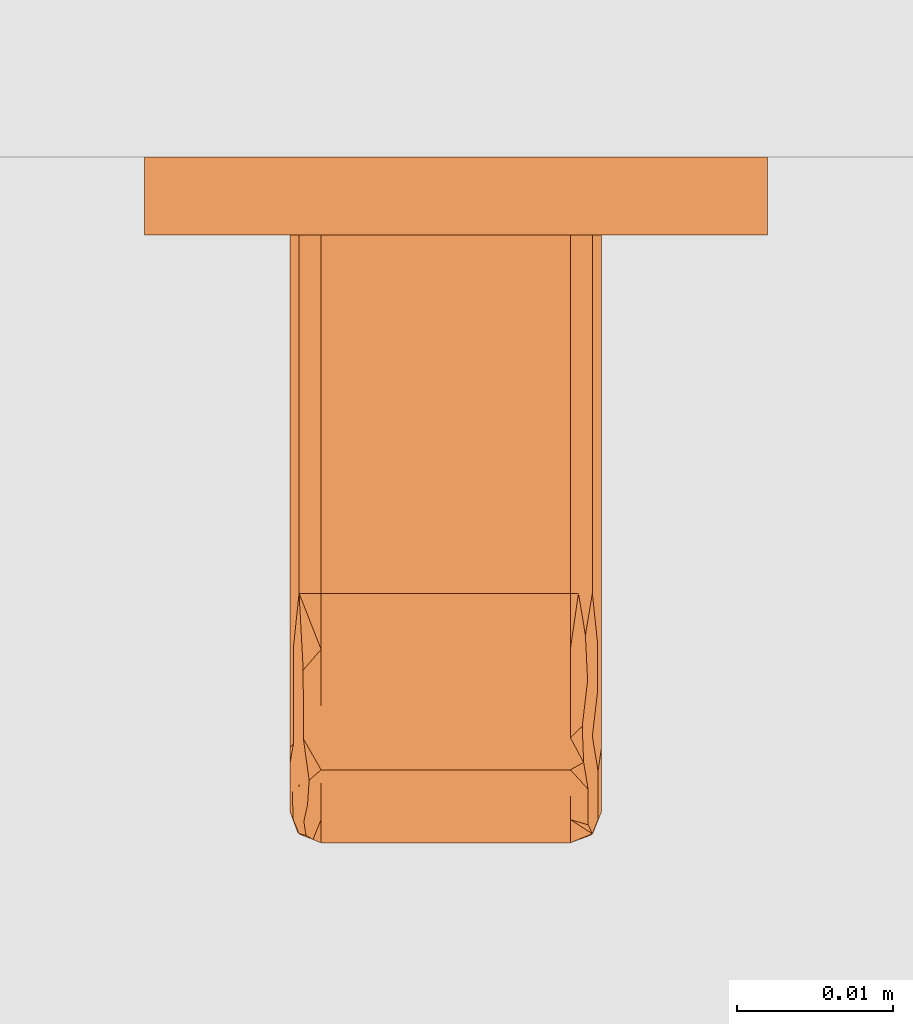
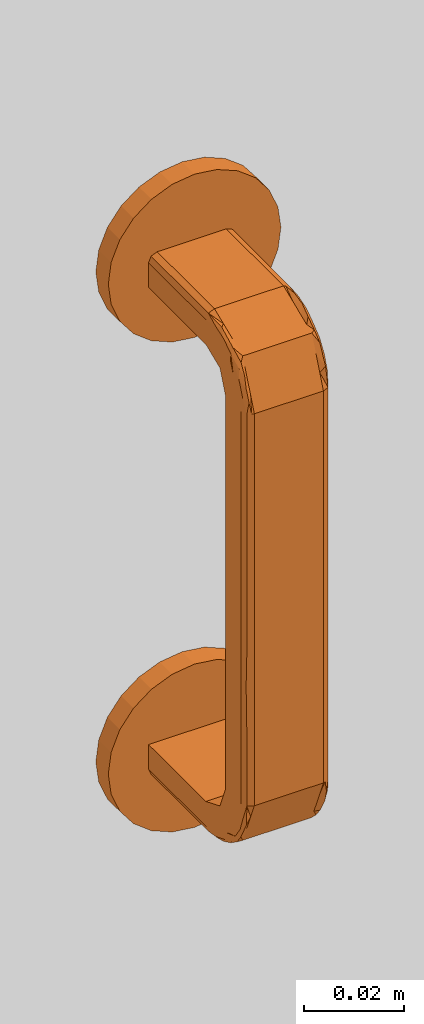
# One storey, part 37 of 67: 1 proxy.
"""IFC4 building model written with IfcOpenShell, lengths in millimetres."""

from ifc_helpers import new_model, entity, si_unit, converted_unit, direction, frame, origin, place, context, subcontext, project, spatial, polygons, source, transform, mapped, material, type_object, type_shapes, element, save


model = new_model("IFC4")

# Units and contexts
model_context = context("Model", 3, precision=0.01, world=origin(), true_north=direction((0.0, 1.0)))
body_context = subcontext(model_context, "Body", "Model", "MODEL_VIEW")
ifc_project = project(units=[si_unit("LENGTHUNIT", "METRE", prefix="MILLI"), si_unit("AREAUNIT", "SQUARE_METRE"), si_unit("VOLUMEUNIT", "CUBIC_METRE"), converted_unit("PLANEANGLEUNIT", "DEGREE", entity("IfcPlaneAngleMeasure", 0.017453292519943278), si_unit("PLANEANGLEUNIT", "RADIAN"), dimensions=[0, 0, 0, 0, 0, 0, 0])], contexts=[model_context])

# Site, building, storey, space
site_placement = place(None, origin())
site = spatial("IfcSite", under=ifc_project, at=site_placement, Name="Tomtens navn", CompositionType="ELEMENT")
building_placement = place(site_placement, origin())
building = spatial("IfcBuilding", under=site, at=building_placement, Name="Byggets navn", CompositionType="ELEMENT")
storey_placement = place(building_placement, origin())
storey = spatial("IfcBuildingStorey", under=building, at=storey_placement, Name="Level 01", CompositionType="ELEMENT", Elevation=2.1993652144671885e-25)
space_placement = place(storey_placement, origin())
space = spatial("IfcSpace", under=storey, at=space_placement, Name="121", CompositionType="ELEMENT", PredefinedType="NOTDEFINED")

# Proxy
ifc_material = material(Name="Handtag, vitt", Category="Unassigned")
building_element_proxy_type = type_object("IfcBuildingElementProxyType", Name="Handtag skåp1:Handtag skåp", PredefinedType="NOTDEFINED", material=ifc_material)
shared_shape = source(origin(), body_context, "Body", "Tessellation", [
    polygons([(8.670220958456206, 4.999999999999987, 4.021099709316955), (-7.329779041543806, 4.999999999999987, 4.021099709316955), (-8.743992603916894, 4.9999999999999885, 3.435313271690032), (-9.32977904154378, 4.999999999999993, 2.021099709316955), (-9.32977904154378, 5.0000000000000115, -4.0210997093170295), (10.67022095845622, 5.0000000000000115, -4.021099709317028), (10.67022095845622, 4.999999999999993, 2.0210997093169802), (10.084434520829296, 4.9999999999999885, 3.435313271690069), (10.67022095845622, 28.000000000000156, 2.0210997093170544), (10.084434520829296, 28.000000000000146, 3.435313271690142), (8.670220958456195, 28.000000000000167, 4.0210997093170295), (8.670220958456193, 15.654960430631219, 4.02109970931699), (10.67022095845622, 17.345040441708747, 2.02109970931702), (10.08659387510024, 16.21238630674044, 3.433150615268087), (10.67022095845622, 28.000000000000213, -4.021099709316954), (10.67022095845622, 33.64193450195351, -6.358065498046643), (10.67022095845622, 35.97890029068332, -11.999999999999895), (10.67022095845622, 35.97890029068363, -107.99999999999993), (10.67022095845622, 33.641934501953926, -113.64193450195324), (10.67022095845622, 28.000000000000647, -115.97890029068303), (10.67022095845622, 4.999999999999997, -115.97890029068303), (10.67022095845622, 4.999999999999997, -122.02109970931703), (10.67022095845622, 28.000000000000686, -122.02109970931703), (10.67022095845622, 37.914414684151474, -117.91441468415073), (10.67022095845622, 42.02109970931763, -107.99999999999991), (10.67022095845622, 42.0210997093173, -11.999999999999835), (10.67022095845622, 37.914414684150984, -2.085585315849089), (-9.32977904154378, 28.000000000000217, -4.021099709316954), (-9.32977904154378, 28.000000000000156, 2.02109970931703), (-9.32977904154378, 37.91441468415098, -2.085585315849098), (-9.32977904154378, 42.02109970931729, -11.999999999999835), (-9.32977904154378, 42.02109970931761, -107.99999999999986), (-9.32977904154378, 37.91441468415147, -117.91441468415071), (-9.32977904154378, 28.00000000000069, -122.02109970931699), (-9.32977904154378, 4.999999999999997, -122.021099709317), (-9.32977904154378, 4.999999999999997, -115.978900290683), (-9.32977904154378, 28.000000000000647, -115.97890029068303), (-9.32977904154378, 33.641934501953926, -113.64193450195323), (-9.32977904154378, 35.97890029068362, -107.99999999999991), (-9.32977904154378, 35.978900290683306, -11.999999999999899), (-9.32977904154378, 33.64193450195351, -6.358065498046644), (-7.329779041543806, 28.00000000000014, 4.0210997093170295), (-8.743992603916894, 28.000000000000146, 3.435313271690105), (-9.32977904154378, 15.654959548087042, 2.021099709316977), (-7.3297790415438, 17.34503999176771, 4.021099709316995), (-8.741829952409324, 16.21238644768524, 3.43747262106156), (10.084434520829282, 43.43531327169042, -11.999999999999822), (8.670220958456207, 44.021099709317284, -11.999999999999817), (8.670220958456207, 39.328628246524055, -0.6713717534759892), (10.67022095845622, 31.60126528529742, 0.5294067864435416), (8.670220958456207, 41.03771385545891, -4.797469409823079), (10.084434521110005, 40.40873190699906, -2.8200071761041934), (8.670220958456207, 35.20253058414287, 1.0377138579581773), (9.809043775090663, 37.34144424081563, 0.5752165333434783), (9.818751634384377, 32.92350079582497, 2.8642465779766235), (10.67022095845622, 39.96775719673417, -7.042792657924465), (10.377327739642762, 28.000000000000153, 2.7282064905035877), (8.670220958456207, 42.529406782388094, -8.398734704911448), (9.779150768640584, 42.65191997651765, -6.400304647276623), (10.431420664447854, 34.75591670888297, 1.357514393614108), (10.447049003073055, 37.64140257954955, -0.5884869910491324), (10.67022095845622, 34.7578399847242, -0.7780892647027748), (10.453824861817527, 31.52927433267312, 2.5026982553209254), (8.670220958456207, 31.601265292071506, 2.5294067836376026), (8.670220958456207, 40.18317105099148, -2.734420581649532), (9.435587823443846, 40.00295364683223, -1.6197407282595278), (9.543801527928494, 41.59747716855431, -3.9137042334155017), (10.67022095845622, 38.941085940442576, -4.564188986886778), (10.50224699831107, 40.95405539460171, -4.794062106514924), (10.477567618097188, 42.45420227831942, -8.47617064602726), (9.193272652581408, 43.80444460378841, -11.999999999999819), (9.638611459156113, 43.538770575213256, -9.303396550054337), (10.67022095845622, 40.99442845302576, -9.521396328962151), (-7.329779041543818, 44.021099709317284, -11.999999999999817), (-8.743992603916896, 43.43531327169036, -11.999999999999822), (-7.329779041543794, 39.328628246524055, -0.6713717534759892), (-7.329779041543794, 35.20253057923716, 1.0377138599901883), (-8.743992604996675, 37.179992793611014, 0.40873192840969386), (-9.32977904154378, 40.52940677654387, -8.398734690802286), (-7.329779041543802, 41.03771385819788, -4.797469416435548), (-8.468601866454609, 40.57521654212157, -2.6585557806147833), (-8.47830971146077, 42.864246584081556, -7.076499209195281), (-9.32977904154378, 32.95720734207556, -0.03224280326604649), (-9.036885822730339, 42.728206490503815, -11.999999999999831), (-7.329779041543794, 31.601265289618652, 2.529406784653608), (-8.43870885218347, 33.59969531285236, 2.6519199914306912), (-9.090978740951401, 41.357514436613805, -5.244083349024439), (-9.106607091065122, 39.41151304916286, -2.358597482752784), (-9.32977904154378, 39.22191073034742, -5.242160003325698), (-9.113382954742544, 42.502698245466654, -8.470725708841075), (-7.32977904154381, 42.52940678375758, -8.398734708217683), (-7.329779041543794, 37.26557941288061, 0.18317105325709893), (-8.095145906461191, 36.54048464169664, 1.37463273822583), (-8.18279176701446, 38.85536792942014, -0.47819170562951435), (-9.32977904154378, 35.43581101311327, -1.0589140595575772), (-7.852830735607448, 28.00000000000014, 3.8044446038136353), (-8.29816953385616, 30.69660343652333, 3.5387705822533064), (-9.060718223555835, 31.048754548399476, 2.7104148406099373), (-9.074370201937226, 34.340507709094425, 1.5930015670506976), (-9.32977904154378, 30.478603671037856, 0.9944284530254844), (-7.32977904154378, 33.664314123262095, 1.6748639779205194), (8.670220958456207, 33.664314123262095, 1.6748639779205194), (8.670220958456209, 30.748770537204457, 2.882521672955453), (-7.32977904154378, 41.67486397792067, -6.335685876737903), (8.670220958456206, 41.67486397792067, -6.335685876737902), (8.670220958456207, 40.50174611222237, -3.503528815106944), (-7.32977904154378, 36.496471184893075, 0.5017461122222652), (8.670220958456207, 36.496471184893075, 0.5017461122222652), (-7.32977904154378, 30.83215706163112, 2.847981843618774), (8.670220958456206, 42.882521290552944, -9.251228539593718), (-7.32977904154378, 42.84798184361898, -9.167842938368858), (-7.32977904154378, 40.50174611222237, -3.503528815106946), (10.084434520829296, 43.435313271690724, -107.99999999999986), (8.670220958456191, 44.0210997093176, -107.99999999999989), (10.67022095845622, 42.02109970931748, -61.380159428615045), (8.670220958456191, 44.021099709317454, -60.0000005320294), (8.670220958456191, 44.02109970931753, -83.30992070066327), (10.67022095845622, 42.021099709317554, -84.69007971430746), (8.670220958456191, 44.021099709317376, -36.690079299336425), (10.67022095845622, 42.02109970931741, -36.690079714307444), (10.67022095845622, 42.021099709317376, -24.34503985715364), (8.670220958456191, 44.02109970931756, -95.65496088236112), (8.670220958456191, 44.02109970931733, -24.34504018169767), (10.67022095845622, 42.021099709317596, -95.65496014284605), (10.084434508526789, 43.43531328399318, -90.17251993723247), (10.67022095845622, 42.02109970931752, -73.035119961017), (10.043884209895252, 43.4747328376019, -67.20763959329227), (10.084434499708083, 43.435313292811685, -30.517560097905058), (10.084434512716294, 43.435313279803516, -43.72292802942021), (10.67022095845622, 42.021099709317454, -49.03511957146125), (10.049878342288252, 43.469044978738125, -55.46284370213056), (8.67022095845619, 44.02109970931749, -71.65496114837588), (10.18815291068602, 43.32336027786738, -78.66752152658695), (8.670220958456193, 44.02109970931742, -48.34503991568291), (-7.329779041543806, 44.0210997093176, -107.99999999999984), (-8.743992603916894, 43.43531327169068, -107.99999999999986), (-7.3297790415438, 44.021099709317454, -61.38015981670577), (-9.32977904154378, 42.021099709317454, -59.999999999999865), (-9.32977904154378, 42.02109970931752, -83.30992051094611), (-7.329779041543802, 44.02109970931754, -84.69008022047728), (-9.32977904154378, 42.02109970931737, -36.69007991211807), (-7.329779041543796, 44.021099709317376, -36.69007990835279), (-7.329779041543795, 44.02109970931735, -24.345039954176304), (-9.32977904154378, 42.02109970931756, -95.65496025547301), (-9.32977904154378, 42.02109970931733, -24.345040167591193), (-7.329779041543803, 44.021099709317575, -95.65496067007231), (-8.743992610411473, 43.43531326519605, -90.17252002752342), (-7.3297790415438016, 44.0210997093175, -73.03512001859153), (-8.783412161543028, 43.39476296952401, -67.2076399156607), (-8.743992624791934, 43.4353132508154, -30.517560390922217), (-8.74399260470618, 43.43531327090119, -43.72292838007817), (-7.329779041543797, 44.02109970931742, -49.03511986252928), (-8.777724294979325, 43.40075710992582, -55.46284405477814), (-9.32977904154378, 42.02109970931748, -71.65496025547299), (-8.632039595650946, 43.53903167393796, -78.6675217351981), (-9.32977904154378, 42.02109970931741, -48.345039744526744), (10.08443452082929, 28.0000000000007, -123.43531327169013), (8.670220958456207, 28.000000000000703, -124.02109970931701), (8.670220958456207, 39.32862824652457, -119.32862824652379), (10.67022095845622, 40.52940678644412, -111.60126528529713), (8.670220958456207, 35.202530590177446, -121.03771385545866), (10.084434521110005, 37.179992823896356, -120.4087319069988), (8.670220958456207, 41.03771385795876, -115.20253058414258), (9.809043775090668, 40.575216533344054, -117.34144424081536), (9.818751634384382, 42.864246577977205, -112.9235007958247), (10.67022095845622, 32.95720734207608, -119.96775719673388), (10.377327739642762, 42.728206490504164, -107.99999999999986), (8.670220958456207, 31.601265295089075, -122.52940678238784), (9.779150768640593, 33.5996953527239, -122.65191997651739), (10.431420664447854, 41.357514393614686, -114.7559167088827), (10.447049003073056, 39.41151300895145, -117.64140257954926), (10.67022095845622, 39.2219107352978, -114.75783998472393), (10.453824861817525, 42.50269825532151, -111.52927433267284), (8.670220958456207, 42.52940678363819, -111.60126529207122), (8.670220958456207, 37.26557941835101, -120.18317105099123), (9.43558782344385, 38.38025927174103, -120.00295364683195), (9.543801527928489, 36.08629576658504, -121.59747716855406), (10.67022095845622, 35.435811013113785, -118.9410859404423), (10.50224699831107, 35.20593789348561, -120.95405539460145), (10.477567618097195, 31.523829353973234, -122.45420227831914), (9.193272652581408, 28.000000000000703, -123.80444460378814), (9.638611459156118, 30.696603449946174, -123.538770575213), (10.67022095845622, 30.47860367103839, -120.99442845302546), (-7.329779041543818, 28.000000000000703, -124.02109970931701), (-8.743992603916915, 28.0000000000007, -123.43531327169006), (-7.329779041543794, 39.32862824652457, -119.32862824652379), (-7.329779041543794, 41.03771385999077, -115.20253057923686), (-8.743992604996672, 40.40873192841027, -117.17999279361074), (-9.32977904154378, 31.601265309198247, -120.52940677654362), (-7.329779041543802, 35.20253058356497, -121.03771385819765), (-8.468601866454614, 37.34144421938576, -120.57521654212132), (-8.478309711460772, 32.92350079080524, -122.8642465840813), (-9.32977904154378, 39.967757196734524, -112.95720734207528), (-9.036885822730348, 28.000000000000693, -122.72820649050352), (-7.329779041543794, 42.529406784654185, -111.60126528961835), (-8.438708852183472, 42.65191999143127, -113.59969531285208), (-9.090978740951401, 34.75591665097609, -121.35751443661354), (-9.106607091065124, 37.64140251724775, -119.41151304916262), (-9.32977904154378, 34.75783999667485, -119.22191073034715), (-9.113382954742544, 31.529274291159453, -122.50269824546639), (-7.329779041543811, 31.601265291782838, -122.52940678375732), (-7.329779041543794, 40.18317105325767, -117.26557941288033), (-8.095145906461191, 41.37463273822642, -116.54048464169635), (-8.182791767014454, 39.52180829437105, -118.85536792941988), (-9.32977904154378, 38.941085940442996, -115.435811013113), (-7.852830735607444, 43.804444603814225, -107.99999999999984), (-8.298169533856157, 43.53877058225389, -110.69660343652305), (-9.060718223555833, 42.710414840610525, -111.04875454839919), (-9.074370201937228, 41.59300156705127, -114.34050770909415), (-9.32977904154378, 40.99442845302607, -110.47860367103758), (-7.32977904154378, 41.6748639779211, -113.66431412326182), (8.670220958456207, 41.6748639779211, -113.66431412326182), (8.670220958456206, 42.88252167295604, -110.74877053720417), (-7.32977904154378, 33.66431412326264, -121.67486397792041), (8.670220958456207, 33.66431412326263, -121.67486397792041), (8.670220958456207, 36.4964711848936, -120.50174611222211), (-7.32977904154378, 40.50174611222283, -116.4964711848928), (8.670220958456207, 40.50174611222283, -116.4964711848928), (-7.32977904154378, 42.84798184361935, -110.83215706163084), (8.670220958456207, 30.748771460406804, -122.88252129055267), (-7.329779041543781, 30.83215706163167, -122.84798184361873), (-7.32977904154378, 36.49647118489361, -120.50174611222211), (8.670220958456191, 4.99999999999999, -124.021099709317), (10.084434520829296, 4.99999999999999, -123.43531327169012), (-8.743992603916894, 4.99999999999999, -123.43531327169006), (-7.32977904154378, 4.99999999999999, -124.02109970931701), (8.670220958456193, 17.34504139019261, -124.021099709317), (10.67022095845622, 15.65496022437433, -122.02109970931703), (10.08659387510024, 16.787613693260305, -123.43315061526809), (-9.32977904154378, 17.34504010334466, -122.02109970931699), (-7.3297790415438, 15.6549594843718, -124.021099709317), (-8.741829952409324, 16.787613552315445, -123.43747262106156)], [[[4, 5, 6, 7, 8, 1, 2, 3]], [[18, 17, 40, 39]], [[226, 223, 224, 22, 21, 36, 35, 225]], [[13, 9, 57, 10]], [[14, 13, 10]], [[11, 12, 14]], [[1, 8, 12]], [[12, 8, 14]], [[13, 14, 7]], [[14, 8, 7]], [[14, 10, 11]], [[6, 15, 16, 17, 18, 19, 20, 21, 22, 228, 23, 183, 166, 178, 24, 172, 160, 25, 124, 118, 126, 115, 130, 120, 121, 26, 73, 56, 68, 27, 62, 50, 9, 13, 7]], [[15, 6, 5, 28]], [[158, 227, 223, 226, 231, 184]], [[36, 37, 38, 39, 40, 41, 28, 5, 4, 44, 29, 100, 83, 95, 30, 89, 79, 31, 145, 141, 156, 138, 154, 139, 144, 32, 210, 193, 205, 33, 199, 189, 34, 230, 35]], [[45, 42, 96, 43]], [[46, 45, 43]], [[29, 44, 46]], [[4, 3, 44]], [[44, 3, 46]], [[45, 46, 2]], [[46, 3, 2]], [[46, 43, 29]], [[2, 1, 12, 11, 42, 45]], [[21, 20, 37, 36]], [[60, 62, 61]], [[68, 56, 69]], [[66, 65, 49]], [[55, 54, 53]], [[59, 58, 105, 51]], [[67, 51, 106, 65]], [[69, 56, 70]], [[50, 60, 63]], [[55, 64, 10]], [[59, 67, 52]], [[54, 49, 108, 53]], [[72, 71, 58]], [[54, 55, 60]], [[69, 61, 68]], [[66, 52, 67]], [[68, 61, 27]], [[55, 10, 63]], [[63, 10, 57, 9]], [[71, 48, 110, 58]], [[70, 26, 47]], [[54, 60, 61]], [[63, 9, 50]], [[54, 61, 52]], [[27, 61, 62]], [[60, 50, 62]], [[63, 60, 55]], [[10, 64, 103, 11]], [[55, 53, 102, 64]], [[66, 54, 52]], [[66, 49, 54]], [[66, 67, 65]], [[67, 59, 51]], [[69, 52, 61]], [[69, 59, 52]], [[59, 69, 70]], [[70, 72, 59]], [[73, 26, 70, 56]], [[47, 71, 72]], [[47, 72, 70]], [[59, 72, 58]], [[15, 28, 41, 16]], [[41, 40, 17, 16]], [[96, 42, 109, 85]], [[79, 87, 90]], [[86, 85, 101, 77]], [[86, 99, 98]], [[93, 77, 107, 92]], [[81, 82, 87]], [[80, 82, 81]], [[78, 95, 99]], [[87, 89, 88]], [[78, 99, 86]], [[93, 94, 78]], [[82, 91, 75]], [[81, 76, 112, 80]], [[94, 93, 92]], [[88, 78, 94]], [[95, 88, 30]], [[82, 75, 90]], [[90, 75, 84, 31]], [[43, 97, 98]], [[86, 98, 97]], [[81, 87, 88]], [[90, 31, 79]], [[94, 81, 88]], [[30, 88, 89]], [[87, 79, 89]], [[90, 87, 82]], [[75, 91, 111, 74]], [[82, 80, 104, 91]], [[93, 86, 77]], [[93, 78, 86]], [[94, 76, 81]], [[76, 94, 92]], [[78, 88, 95]], [[43, 96, 97]], [[97, 96, 85]], [[86, 97, 85]], [[98, 29, 43]], [[99, 95, 83, 100]], [[100, 98, 99]], [[100, 29, 98]], [[42, 11, 103, 64, 102, 53, 108, 49, 76, 92, 107, 77, 101, 85, 109]], [[105, 58, 110, 48, 74, 111, 91, 104, 80, 112, 76, 49, 65, 106, 51]], [[47, 26, 121, 120, 130, 129, 128]], [[124, 25, 167, 113, 125, 118]], [[118, 133, 126]], [[127, 115, 126]], [[123, 48, 71, 47, 128, 129, 134, 119]], [[113, 114, 122, 117, 125]], [[129, 130, 131]], [[115, 131, 130]], [[133, 127, 126]], [[132, 116, 127]], [[125, 117, 133]], [[116, 134, 131]], [[127, 116, 131]], [[127, 131, 115]], [[134, 129, 131]], [[132, 127, 133]], [[117, 132, 133]], [[125, 133, 118]], [[75, 74, 143, 142, 152, 151, 150]], [[146, 135, 206, 136, 147, 140]], [[140, 155, 148]], [[149, 137, 148]], [[145, 31, 84, 75, 150, 151, 156, 141]], [[136, 32, 144, 139, 147]], [[151, 152, 153]], [[137, 153, 152]], [[155, 149, 148]], [[154, 138, 149]], [[147, 139, 155]], [[138, 156, 153]], [[149, 138, 153]], [[149, 153, 137]], [[156, 151, 153]], [[154, 149, 155]], [[139, 154, 155]], [[147, 155, 140]], [[74, 48, 123, 119, 134, 116, 132, 117, 122, 114, 135, 146, 140, 148, 137, 152, 142, 143]], [[170, 172, 171]], [[178, 166, 179]], [[176, 175, 159]], [[165, 164, 163]], [[169, 168, 215, 161]], [[177, 161, 216, 175]], [[179, 166, 180]], [[160, 170, 173]], [[165, 174, 113]], [[169, 177, 162]], [[164, 159, 218, 163]], [[182, 181, 168]], [[164, 165, 170]], [[179, 171, 178]], [[176, 162, 177]], [[178, 171, 24]], [[165, 113, 173]], [[173, 113, 167, 25]], [[181, 158, 220, 168]], [[180, 23, 157]], [[164, 170, 171]], [[173, 25, 160]], [[164, 171, 162]], [[24, 171, 172]], [[170, 160, 172]], [[173, 170, 165]], [[113, 174, 213, 114]], [[165, 163, 212, 174]], [[176, 164, 162]], [[176, 159, 164]], [[176, 177, 175]], [[177, 169, 161]], [[179, 162, 171]], [[179, 169, 162]], [[169, 179, 180]], [[180, 182, 169]], [[183, 23, 180, 166]], [[157, 181, 182]], [[157, 182, 180]], [[169, 182, 168]], [[18, 39, 38, 19]], [[38, 37, 20, 19]], [[206, 135, 219, 195]], [[189, 197, 200]], [[196, 195, 211, 187]], [[196, 209, 208]], [[203, 187, 217, 202]], [[191, 192, 197]], [[190, 192, 191]], [[188, 205, 209]], [[197, 199, 198]], [[188, 209, 196]], [[203, 204, 188]], [[192, 201, 185]], [[191, 186, 222, 190]], [[204, 203, 202]], [[188, 196, 203]], [[205, 198, 33]], [[192, 185, 200]], [[200, 185, 194, 34]], [[136, 207, 208]], [[196, 208, 207]], [[191, 197, 198]], [[200, 34, 189]], [[204, 191, 198]], [[33, 198, 199]], [[197, 189, 199]], [[200, 197, 192]], [[185, 201, 221, 184]], [[192, 190, 214, 201]], [[187, 203, 196]], [[188, 204, 198]], [[204, 186, 191]], [[186, 204, 202]], [[188, 198, 205]], [[136, 206, 207]], [[207, 206, 195]], [[196, 207, 195]], [[208, 32, 136]], [[209, 205, 193, 210]], [[210, 208, 209]], [[210, 32, 208]], [[135, 114, 213, 174, 212, 163, 218, 159, 186, 202, 217, 187, 211, 195, 219]], [[215, 168, 220, 158, 184, 221, 201, 214, 190, 222, 186, 159, 175, 216, 161]], [[22, 224, 228]], [[229, 228, 224]], [[223, 227, 229]], [[227, 158, 181, 157]], [[227, 157, 229]], [[228, 229, 23]], [[229, 157, 23]], [[229, 224, 223]], [[226, 225, 231]], [[232, 231, 225]], [[35, 230, 232]], [[230, 34, 194, 185]], [[230, 185, 232]], [[231, 232, 184]], [[232, 185, 184]], [[232, 225, 35]]], closed=True),
    polygons([(-20.00000000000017, 4.999999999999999, 4.9806020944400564e-15), (-19.318516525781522, 4.999999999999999, 5.176380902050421), (-17.320508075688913, 4.999999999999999, 9.999999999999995), (-14.142135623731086, 4.999999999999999, 14.142135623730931), (-10.000000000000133, 4.999999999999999, 17.320508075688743), (-5.176380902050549, 4.999999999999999, 19.318516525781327), (-1.3958834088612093e-13, 4.999999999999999, 19.99999999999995), (5.176380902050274, 4.999999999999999, 19.31851652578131), (9.99999999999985, 4.999999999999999, 17.32050807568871), (14.142135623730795, 4.999999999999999, 14.142135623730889), (17.32050807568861, 4.999999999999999, 9.999999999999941), (19.3185165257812, 4.999999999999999, 5.17638090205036), (19.999999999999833, 4.999999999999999, -1.622393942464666e-13), (19.318516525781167, 4.999999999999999, -5.176380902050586), (17.320508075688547, 4.999999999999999, -10.000000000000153), (14.142135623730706, 4.999999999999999, -14.142135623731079), (9.999999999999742, 4.999999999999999, -17.320508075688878), (5.176380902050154, 4.999999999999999, -19.31851652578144), (-2.580269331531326e-13, 4.999999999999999, -20.00000000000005), (-5.176380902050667, 4.999999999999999, -19.318516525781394), (-10.000000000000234, 4.999999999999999, -17.320508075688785), (-14.14213562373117, 4.999999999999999, -14.142135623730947), (-17.320508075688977, 4.999999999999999, -9.999999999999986), (-19.318516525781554, 4.999999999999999, -5.176380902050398), (-20.00000000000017, 0.0, 1.386238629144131e-14), (-19.318516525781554, 0.0, -5.176380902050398), (-17.320508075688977, 0.0, -9.999999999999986), (-14.14213562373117, 0.0, -14.142135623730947), (-10.000000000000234, 0.0, -17.320508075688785), (-5.176380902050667, 0.0, -19.318516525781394), (-2.580269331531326e-13, 0.0, -20.00000000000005), (5.176380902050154, 0.0, -19.31851652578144), (9.999999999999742, 0.0, -17.320508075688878), (14.142135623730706, 0.0, -14.142135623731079), (17.320508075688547, 0.0, -10.000000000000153), (19.318516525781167, 0.0, -5.176380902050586), (19.999999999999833, 0.0, -5.075939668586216e-14), (19.3185165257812, 0.0, 5.17638090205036), (17.32050807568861, 0.0, 9.999999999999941), (14.142135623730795, 0.0, 14.142135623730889), (9.99999999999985, 0.0, 17.32050807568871), (5.176380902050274, 0.0, 19.31851652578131), (-1.3958834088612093e-13, 0.0, 19.99999999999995), (-5.176380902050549, 0.0, 19.318516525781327), (-10.000000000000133, 0.0, 17.320508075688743), (-14.142135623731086, 0.0, 14.142135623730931), (-17.320508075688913, 0.0, 9.999999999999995), (-19.318516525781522, 0.0, 5.176380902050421)], [[[16, 17, 18, 19, 20, 21, 22, 23, 24, 1, 2, 3, 4, 5, 6, 7, 8, 9, 10, 11, 12, 13, 14, 15]], [[41, 42, 43, 44, 45, 46, 47, 48, 25, 26, 27, 28, 29, 30, 31, 32, 33, 34, 35, 36, 37, 38, 39, 40]], [[25, 1, 24, 26]], [[26, 24, 23, 27]], [[29, 28, 22, 21]], [[22, 28, 27, 23]], [[30, 29, 21, 20]], [[30, 20, 19, 31]], [[31, 19, 18, 32]], [[32, 18, 17, 33]], [[35, 34, 16, 15]], [[16, 34, 33, 17]], [[36, 35, 15, 14]], [[36, 14, 13, 37]], [[37, 13, 12, 38]], [[38, 12, 11, 39]], [[41, 40, 10, 9]], [[10, 40, 39, 11]], [[42, 41, 9, 8]], [[42, 8, 7, 43]], [[43, 7, 6, 44]], [[44, 6, 5, 45]], [[47, 46, 4, 3]], [[4, 46, 45, 5]], [[48, 47, 3, 2]], [[48, 2, 1, 25]]], closed=True),
    polygons([(-20.000000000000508, 4.999999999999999, -120.00000000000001), (-19.31851652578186, 4.999999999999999, -114.82361909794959), (-17.320508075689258, 4.999999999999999, -110.00000000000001), (-14.142135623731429, 4.999999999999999, -105.85786437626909), (-10.000000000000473, 4.999999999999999, -102.67949192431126), (-5.176380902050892, 4.999999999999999, -100.68148347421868), (-4.779843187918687e-13, 4.999999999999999, -100.00000000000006), (5.176380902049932, 4.999999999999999, -100.6814834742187), (9.99999999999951, 4.999999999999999, -102.6794919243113), (14.142135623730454, 4.999999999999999, -105.85786437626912), (17.32050807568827, 4.999999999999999, -110.00000000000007), (19.31851652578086, 4.999999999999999, -114.82361909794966), (19.999999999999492, 4.999999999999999, -120.00000000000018), (19.318516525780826, 4.999999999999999, -125.1763809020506), (17.320508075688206, 4.999999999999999, -130.00000000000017), (14.142135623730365, 4.999999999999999, -134.1421356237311), (9.999999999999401, 4.999999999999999, -137.3205080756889), (5.176380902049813, 4.999999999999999, -139.31851652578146), (-6.006528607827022e-13, 4.999999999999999, -140.00000000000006), (-5.176380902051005, 4.999999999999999, -139.3185165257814), (-10.000000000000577, 4.999999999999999, -137.3205080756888), (-14.142135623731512, 4.999999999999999, -134.14213562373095), (-17.32050807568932, 4.999999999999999, -130.0), (-19.31851652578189, 4.999999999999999, -125.17638090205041), (-20.000000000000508, 0.0, -120.0), (-19.31851652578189, 0.0, -125.17638090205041), (-17.32050807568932, 0.0, -130.0), (-14.142135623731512, 0.0, -134.14213562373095), (-10.000000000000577, 0.0, -137.3205080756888), (-5.176380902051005, 0.0, -139.3185165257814), (-6.006528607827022e-13, 0.0, -140.00000000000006), (5.176380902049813, 0.0, -139.31851652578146), (9.999999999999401, 0.0, -137.3205080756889), (14.142135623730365, 0.0, -134.1421356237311), (17.320508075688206, 0.0, -130.00000000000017), (19.318516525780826, 0.0, -125.1763809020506), (19.999999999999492, 0.0, -120.00000000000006), (19.31851652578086, 0.0, -114.82361909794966), (17.32050807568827, 0.0, -110.00000000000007), (14.142135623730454, 0.0, -105.85786437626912), (9.99999999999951, 0.0, -102.6794919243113), (5.176380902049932, 0.0, -100.6814834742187), (-4.779843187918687e-13, 0.0, -100.00000000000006), (-5.176380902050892, 0.0, -100.68148347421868), (-10.000000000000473, 0.0, -102.67949192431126), (-14.142135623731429, 0.0, -105.85786437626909), (-17.320508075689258, 0.0, -110.00000000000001), (-19.31851652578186, 0.0, -114.82361909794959)], [[[17, 18, 19, 20, 21, 22, 23, 24, 1, 2, 3, 4, 5, 6, 7, 8, 9, 10, 11, 12, 13, 14, 15, 16]], [[41, 42, 43, 44, 45, 46, 47, 48, 25, 26, 27, 28, 29, 30, 31, 32, 33, 34, 35, 36, 37, 38, 39, 40]], [[25, 1, 24, 26]], [[26, 24, 23, 27]], [[29, 28, 22, 21]], [[22, 28, 27, 23]], [[30, 29, 21, 20]], [[30, 20, 19, 31]], [[31, 19, 18, 32]], [[32, 18, 17, 33]], [[35, 34, 16, 15]], [[16, 34, 33, 17]], [[36, 35, 15, 14]], [[36, 14, 13, 37]], [[37, 13, 12, 38]], [[38, 12, 11, 39]], [[41, 40, 10, 9]], [[10, 40, 39, 11]], [[42, 41, 9, 8]], [[42, 8, 7, 43]], [[43, 7, 6, 44]], [[44, 6, 5, 45]], [[47, 46, 4, 3]], [[4, 46, 45, 5]], [[48, 47, 3, 2]], [[48, 2, 1, 25]]], closed=True),
])
type_shapes(building_element_proxy_type, [shared_shape])
proxy_placement = place(space_placement, frame((61205.35352810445, 22363.466456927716, 1120.0), z_axis=(0.0, 0.0, 1.0), x_axis=(-1.0, 0.0, 0.0)))
element("IfcBuildingElementProxy", 1, at=proxy_placement, inside=space, type_object=building_element_proxy_type, material=ifc_material, Name="Handtag skåp1:Handtag skåp", PredefinedType="NOTDEFINED", context=body_context, shape_type="MappedRepresentation", body=[
    mapped(shared_shape, transform((0.0, 0.0, 0.0), scale=1.0)),
])

save(model, "model.ifc")
